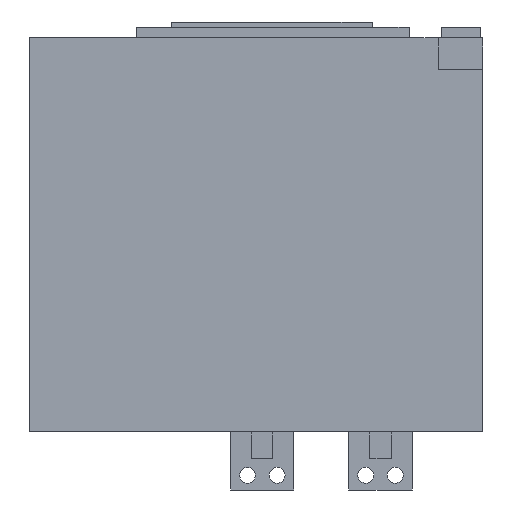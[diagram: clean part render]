
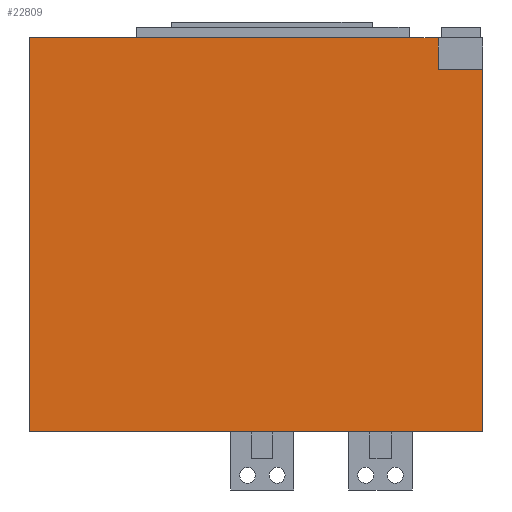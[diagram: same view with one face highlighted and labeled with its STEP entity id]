
A CAD part, left-side view. The second image highlights one B-rep face of the part: STEP entity #22809.
In plain terms, the highlighted planar face has unit normal (-1, 0, 0).
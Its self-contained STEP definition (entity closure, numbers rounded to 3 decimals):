
#286 = CARTESIAN_POINT ( 'NONE',  ( -262.5, 0., 0. ) ) ;
#906 = CARTESIAN_POINT ( 'NONE',  ( -262.5, 42.5, -373.5 ) ) ;
#2454 = DIRECTION ( 'NONE',  ( 0., -1., 0. ) ) ;
#2781 = EDGE_CURVE ( 'NONE', #26505, #24337, #33333, .T. ) ;
#3406 = VECTOR ( 'NONE', #7505, 1000. ) ;
#3438 = CARTESIAN_POINT ( 'NONE',  ( -262.5, 430., 0. ) ) ;
#3911 = DIRECTION ( 'NONE',  ( 0., -1., 0. ) ) ;
#3970 = CARTESIAN_POINT ( 'NONE',  ( -262.5, 430., -373.5 ) ) ;
#4069 = LINE ( 'NONE', #26345, #18044 ) ;
#4234 = EDGE_CURVE ( 'NONE', #18644, #15613, #5573, .T. ) ;
#5531 = CARTESIAN_POINT ( 'NONE',  ( -262.5, 42.5, -30. ) ) ;
#5573 = LINE ( 'NONE', #34220, #19515 ) ;
#6128 = VERTEX_POINT ( 'NONE', #5531 ) ;
#6438 = DIRECTION ( 'NONE',  ( 0., 0., 1. ) ) ;
#7007 = VERTEX_POINT ( 'NONE', #12200 ) ;
#7051 = VECTOR ( 'NONE', #3911, 1000. ) ;
#7161 = CARTESIAN_POINT ( 'NONE',  ( -262.5, 42.5, 0. ) ) ;
#7505 = DIRECTION ( 'NONE',  ( 0., 0., 1. ) ) ;
#8307 = ORIENTED_EDGE ( 'NONE', *, *, #15638, .F. ) ;
#9206 = EDGE_CURVE ( 'NONE', #18644, #26505, #4069, .T. ) ;
#9445 = CARTESIAN_POINT ( 'NONE',  ( -262.5, 0., -373.5 ) ) ;
#10867 = LINE ( 'NONE', #35018, #3406 ) ;
#11323 = VECTOR ( 'NONE', #12921, 1000. ) ;
#12200 = CARTESIAN_POINT ( 'NONE',  ( -262.5, 0., -30. ) ) ;
#12564 = DIRECTION ( 'NONE',  ( 0., 0., 1. ) ) ;
#12921 = DIRECTION ( 'NONE',  ( 0., -1., 0. ) ) ;
#13074 = ORIENTED_EDGE ( 'NONE', *, *, #2781, .F. ) ;
#14477 = LINE ( 'NONE', #17817, #7051 ) ;
#14717 = FACE_OUTER_BOUND ( 'NONE', #19253, .T. ) ;
#15613 = VERTEX_POINT ( 'NONE', #9445 ) ;
#15638 = EDGE_CURVE ( 'NONE', #6128, #7007, #14477, .T. ) ;
#15768 = ORIENTED_EDGE ( 'NONE', *, *, #4234, .T. ) ;
#17817 = CARTESIAN_POINT ( 'NONE',  ( -262.5, 430.001, -30. ) ) ;
#18044 = VECTOR ( 'NONE', #12564, 1000. ) ;
#18390 = ORIENTED_EDGE ( 'NONE', *, *, #18807, .T. ) ;
#18644 = VERTEX_POINT ( 'NONE', #3970 ) ;
#18807 = EDGE_CURVE ( 'NONE', #15613, #7007, #10867, .T. ) ;
#19105 = DIRECTION ( 'NONE',  ( -1., 0., 0. ) ) ;
#19253 = EDGE_LOOP ( 'NONE', ( #13074, #26442, #15768, #18390, #8307, #29785 ) ) ;
#19515 = VECTOR ( 'NONE', #31472, 1000. ) ;
#22289 = VECTOR ( 'NONE', #6438, 1000. ) ;
#22809 = ADVANCED_FACE ( 'NONE', ( #14717 ), #35290, .T. ) ;
#24337 = VERTEX_POINT ( 'NONE', #7161 ) ;
#26345 = CARTESIAN_POINT ( 'NONE',  ( -262.5, 430., -373.5 ) ) ;
#26442 = ORIENTED_EDGE ( 'NONE', *, *, #9206, .F. ) ;
#26505 = VERTEX_POINT ( 'NONE', #3438 ) ;
#26995 = EDGE_CURVE ( 'NONE', #6128, #24337, #29618, .T. ) ;
#29618 = LINE ( 'NONE', #906, #22289 ) ;
#29785 = ORIENTED_EDGE ( 'NONE', *, *, #26995, .T. ) ;
#31472 = DIRECTION ( 'NONE',  ( 0., -1., 0. ) ) ;
#33333 = LINE ( 'NONE', #286, #11323 ) ;
#34220 = CARTESIAN_POINT ( 'NONE',  ( -262.5, 0., -373.5 ) ) ;
#34682 = AXIS2_PLACEMENT_3D ( 'NONE', #35517, #19105, #2454 ) ;
#35018 = CARTESIAN_POINT ( 'NONE',  ( -262.5, 0., -373.5 ) ) ;
#35290 = PLANE ( 'NONE',  #34682 ) ;
#35517 = CARTESIAN_POINT ( 'NONE',  ( -262.5, 0., -373.5 ) ) ;
